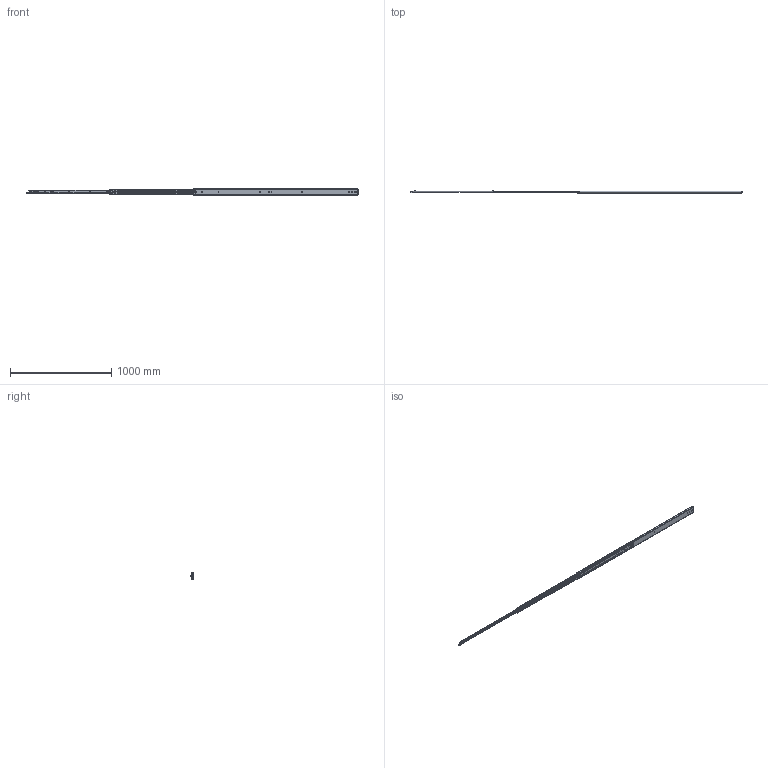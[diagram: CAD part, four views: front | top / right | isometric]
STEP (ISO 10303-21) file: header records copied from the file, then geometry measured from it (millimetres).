
FILE_DESCRIPTION((''),'2;1');
FILE_NAME('DG-76-3S-64ZUO_ASM','2023-05-11T',('jishu015'),(''),'PRO/ENGINEER BY PARAMETRIC TECHNOLOGY CORPORATION, 2010280','PRO/ENGINEER BY PARAMETRIC TECHNOLOGY CORPORATION, 2010280','');
FILE_SCHEMA(('CONFIG_CONTROL_DESIGN'));
Products named in the file (29): KP-76-04WAIKE-181621_; 1076-WAIKEZIDANJIAO1621____; WAIK16________________ASM; 1076XIAOZHUTIAO-2251621____; 16_______________; 1076XIAOZHUTIAO-1751621_____ASM; KP-76-04ZHONGGUI181611___; 76CHANGGUIZHONGGUIJIAO162111_; 3X6WODIN16_______________; ZHONGGUIBAIKOU16_______________; PJ-76-30______________; PJ-76-03______________; 76-XIAOZHUJIA-11______________; GANGZHU-XIAO______________; ZHUJIA-XIAO_______________ASM; ZHONGGUI6________________ASM; KP-76-04NEIGUI181611_; PJ-76-31______________; DAOGPIAN16_______________; 1053-3SBANJ01______________; JIAO-11______________; 76XINSUOKOU______________; PJ-338______________; PJ-356______________; PJ-357______________; PJ-336______________; M4X4______________; NEIGUI16________________ASM; DG-76-3S-64ZUO_ASM
Assembly tree (120 placements, depth 4):
  DG-76-3S-64ZUO_ASM
    WAIK16________________ASM
      KP-76-04WAIKE-181621_
      1076-WAIKEZIDANJIAO1621____  x2
    1076XIAOZHUTIAO-1751621_____ASM  x2
      1076XIAOZHUTIAO-2251621____
      16_______________
    ZHONGGUI6________________ASM
      KP-76-04ZHONGGUI181611___
      76CHANGGUIZHONGGUIJIAO162111_
      3X6WODIN16_______________
      ZHONGGUIBAIKOU16_______________
      PJ-76-30______________
      PJ-76-03______________
      ZHUJIA-XIAO_______________ASM
        76-XIAOZHUJIA-11______________
        GANGZHU-XIAO______________  x62
    NEIGUI16________________ASM
      KP-76-04NEIGUI181611_
      PJ-76-31______________
      DAOGPIAN16_______________
      1053-3SBANJ01______________
      JIAO-11______________
      76XINSUOKOU______________
      PJ-338______________
      PJ-356______________
      PJ-357______________
      PJ-336______________
      M4X4______________
Bounding box: 3277.12 x 20.7 x 75.3 mm (x, y, z)
Volume: 1078140.6 mm3; surface area: 1039382.9 mm2
Topology: 146 solids, 146 shells, 3237 faces, 9985 edges, 6273 vertices
Faces by surface type: plane 1681, cylinder 1178, sphere 251, bspline 60, cone 28, extrusion 23, torus 16
Entity records: 101415 total; most frequent: CARTESIAN_POINT 27037, ORIENTED_EDGE 16542, DIRECTION 14502, EDGE_CURVE 8271, VERTEX_POINT 5385, AXIS2_PLACEMENT_3D 5099, VECTOR 4304, LINE 4281
